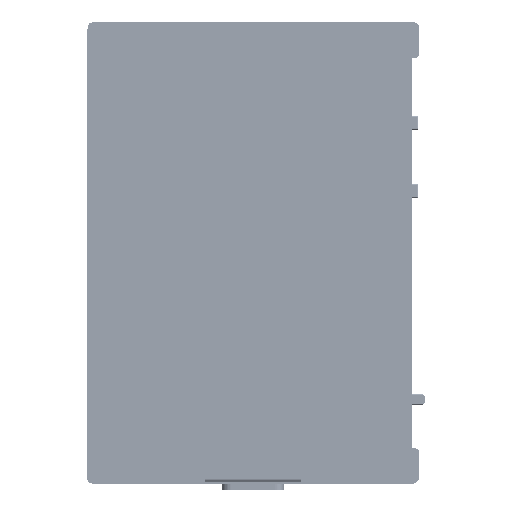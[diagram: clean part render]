
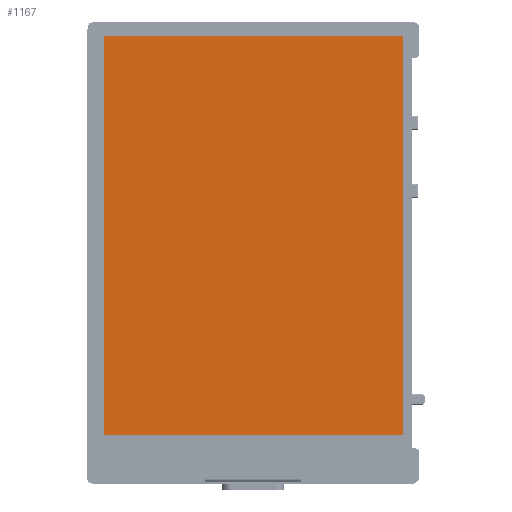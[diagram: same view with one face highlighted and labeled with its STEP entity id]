
A CAD part, top view. The second image highlights one B-rep face of the part: STEP entity #1167.
In plain terms, the highlighted planar face has unit normal (0, 0, 1).
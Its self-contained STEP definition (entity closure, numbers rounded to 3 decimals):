
#39=DIRECTION('',(0.,1.,0.));
#40=VECTOR('',#39,57.6);
#41=CARTESIAN_POINT('',(21.6,-28.8,-0.55));
#42=LINE('',#41,#40);
#47=DIRECTION('',(-1.,0.,0.));
#48=VECTOR('',#47,43.2);
#49=CARTESIAN_POINT('',(21.6,-28.8,-0.55));
#50=LINE('',#49,#48);
#54=DIRECTION('',(0.,1.,0.));
#55=VECTOR('',#54,57.6);
#56=CARTESIAN_POINT('',(-21.6,-28.8,-0.55));
#57=LINE('',#56,#55);
#61=DIRECTION('',(-1.,0.,0.));
#62=VECTOR('',#61,43.2);
#63=CARTESIAN_POINT('',(21.6,28.8,-0.55));
#64=LINE('',#63,#62);
#1080=CARTESIAN_POINT('',(21.6,-28.8,-0.55));
#1081=CARTESIAN_POINT('',(21.6,28.8,-0.55));
#1082=VERTEX_POINT('',#1080);
#1083=VERTEX_POINT('',#1081);
#1084=CARTESIAN_POINT('',(-21.6,28.8,-0.55));
#1085=VERTEX_POINT('',#1084);
#1086=CARTESIAN_POINT('',(-21.6,-28.8,-0.55));
#1087=VERTEX_POINT('',#1086);
#1152=CARTESIAN_POINT('',(0.,0.,-0.55));
#1153=DIRECTION('',(0.,0.,-1.));
#1154=DIRECTION('',(-1.,0.,0.));
#1155=AXIS2_PLACEMENT_3D('',#1152,#1153,#1154);
#1156=PLANE('',#1155);
#1158=ORIENTED_EDGE('',*,*,#1157,.F.);
#1160=ORIENTED_EDGE('',*,*,#1159,.T.);
#1162=ORIENTED_EDGE('',*,*,#1161,.T.);
#1164=ORIENTED_EDGE('',*,*,#1163,.F.);
#1165=EDGE_LOOP('',(#1158,#1160,#1162,#1164));
#1166=FACE_OUTER_BOUND('',#1165,.F.);
#1167=ADVANCED_FACE('',(#1166),#1156,.F.);
#1157=EDGE_CURVE('',#1082,#1083,#42,.T.);
#1159=EDGE_CURVE('',#1082,#1087,#50,.T.);
#1161=EDGE_CURVE('',#1087,#1085,#57,.T.);
#1163=EDGE_CURVE('',#1083,#1085,#64,.T.);
